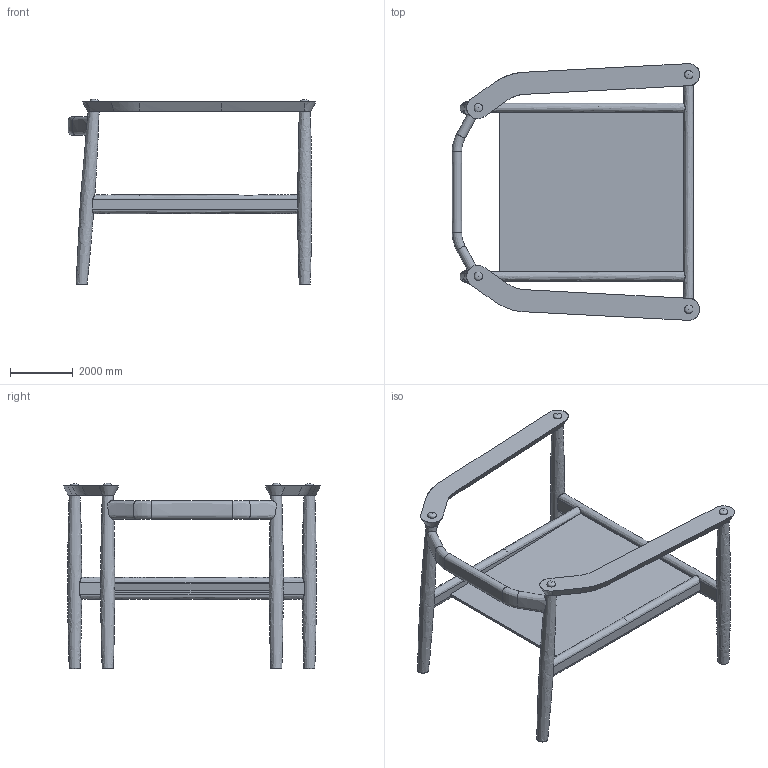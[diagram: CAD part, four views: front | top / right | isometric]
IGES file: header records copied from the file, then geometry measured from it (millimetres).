
Start section: Si usi questo modello per modellare oggetti di grandi dimensioni oppure oggetti per i quali non  prevista un'elevata accuratezza di fabbricazione. Unit : Centimetri Tolleranza assoluta: .01 cm
Global section: file name: C:\Users\roby\Desktop\nuovi\POLTRONE\Sergia 3D\arm Sergia.igs; native system: Rhinoceros ( Aug 10 2015 ); preprocessor: Trout Lake IGES 012 Aug 10 2015; date: 161221.112141; units: centimetre
Bounding box: 7856.69 x 8149.22 x 5881.82 mm (x, y, z)
Surface area: 327469059.8 mm2 (no closed solid volume)
Topology: 0 solids, 0 shells, 183 faces, 1618 edges, 1556 vertices
Faces by surface type: bspline 183
